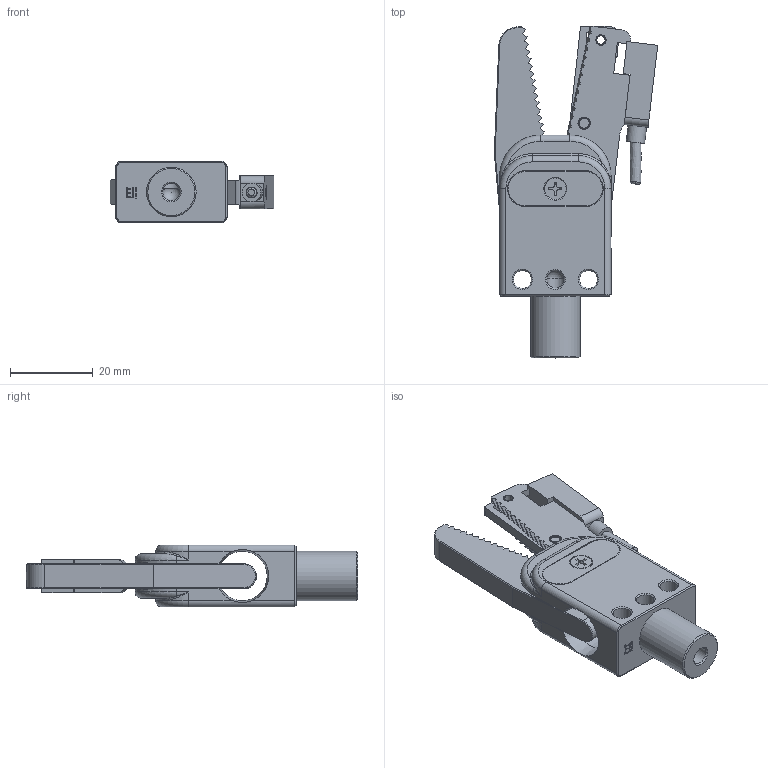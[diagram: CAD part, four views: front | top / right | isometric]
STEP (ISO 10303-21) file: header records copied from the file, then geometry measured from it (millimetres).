
FILE_DESCRIPTION(/* description */ (''),/* implementation_level */ '2;1');
FILE_NAME(/* name */ 'GR12B-12-CP.stp',/* time_stamp */ '2023-03-08T11:48:04+08:00',/* author */ (''),/* organization */ (''),/* preprocessor_version */ 'ST-DEVELOPER v16',/* originating_system */ 'SIEMENS PLM Software NX 10.0',/* authorisation */ '');
FILE_SCHEMA (('AUTOMOTIVE_DESIGN { 1 0 10303 214 3 1 1 1 }'));
Length unit declared in the file: millimetre
Products named in the file (1): Admi115498B06itq
Bounding box: 39.6 x 80.42 x 15 mm (x, y, z)
Volume: 16407.2 mm3; surface area: 10372.1 mm2
Topology: 1 solids, 11 shells, 624 faces, 1692 edges, 1093 vertices
Faces by surface type: plane 437, cylinder 94, cone 55, bspline 25, torus 12, sphere 1
Full cylindrical faces by diameter (mm): 2.2 x2, 2.5 x4, 3 x5, 3.2 x3, 3.5 x1, 4.2 x2, 4.3 x3, 4.5 x1, 5.2 x1, 12 x2
Entity records: 24129 total; most frequent: CARTESIAN_POINT 4570, ORIENTED_EDGE 3226, DIRECTION 2958, EDGE_CURVE 1613, LINE 1184, VECTOR 1184, VERTEX_POINT 1066, AXIS2_PLACEMENT_3D 887
